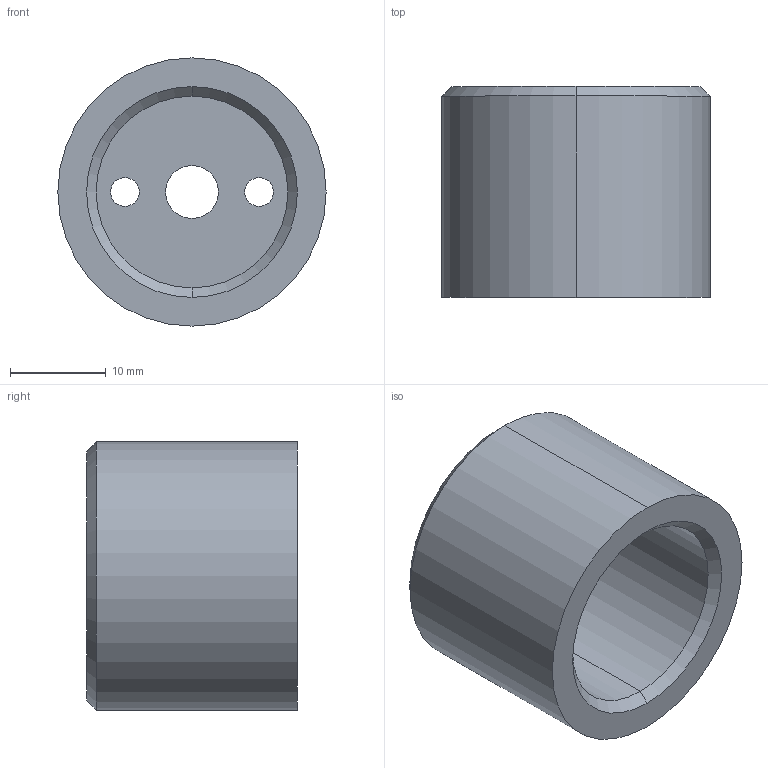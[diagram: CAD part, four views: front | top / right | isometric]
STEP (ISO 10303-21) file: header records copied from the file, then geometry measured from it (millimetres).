
FILE_DESCRIPTION (( 'STEP AP203' ), '1' );
FILE_NAME ('Elektrodenhalter_innen.STEP', '2020-12-15T00:53:40', ( '' ), ( '' ), 'SwSTEP 2.0', 'SolidWorks 2017', '' );
FILE_SCHEMA (( 'CONFIG_CONTROL_DESIGN' ));
Length unit declared in the file: millimetre
Products named in the file (1): Elektrodenhalter_innen
Bounding box: 28 x 22 x 28 mm (x, y, z)
Volume: 8334.1 mm3; surface area: 4242 mm2
Topology: 1 solids, 1 shells, 20 faces, 44 edges, 28 vertices
Faces by surface type: cylinder 12, cone 4, plane 4
Entity records: 653 total; most frequent: DIRECTION 114, CARTESIAN_POINT 93, ORIENTED_EDGE 88, AXIS2_PLACEMENT_3D 49, EDGE_CURVE 44, EDGE_LOOP 28, CIRCLE 28, VERTEX_POINT 28
